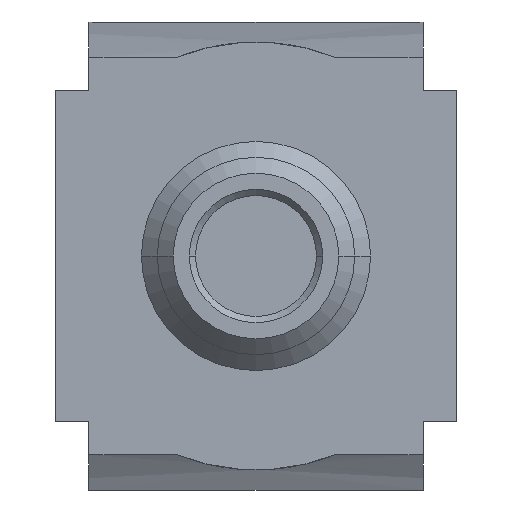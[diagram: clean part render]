
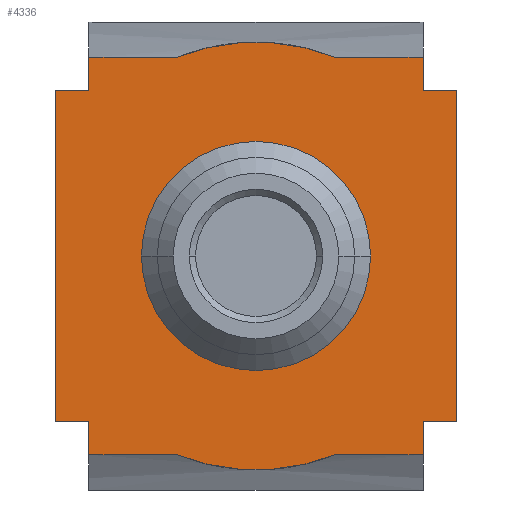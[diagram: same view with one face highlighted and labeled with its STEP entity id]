
A CAD part, front view. The second image highlights one B-rep face of the part: STEP entity #4336.
In plain terms, the highlighted planar face has unit normal (0, -1, 0).
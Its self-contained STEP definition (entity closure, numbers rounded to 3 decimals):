
#889=DIRECTION('',(0.,0.,-1.));
#890=VECTOR('',#889,5.242);
#891=CARTESIAN_POINT('',(-26.25,-37.5,-26.));
#892=LINE('',#891,#890);
#923=DIRECTION('',(0.,0.,-1.));
#924=VECTOR('',#923,5.242);
#925=CARTESIAN_POINT('',(-26.25,-37.5,31.242));
#926=LINE('',#925,#924);
#981=DIRECTION('',(1.,0.,0.));
#982=VECTOR('',#981,5.25);
#983=CARTESIAN_POINT('',(26.25,-37.5,26.));
#984=LINE('',#983,#982);
#989=DIRECTION('',(1.,0.,0.));
#990=VECTOR('',#989,5.25);
#991=CARTESIAN_POINT('',(-31.5,-37.5,26.));
#992=LINE('',#991,#990);
#1340=DIRECTION('',(1.,0.,0.));
#1341=VECTOR('',#1340,5.25);
#1342=CARTESIAN_POINT('',(26.25,-37.5,-26.));
#1343=LINE('',#1342,#1341);
#1374=DIRECTION('',(1.,0.,0.));
#1375=VECTOR('',#1374,5.25);
#1376=CARTESIAN_POINT('',(-31.5,-37.5,-26.));
#1377=LINE('',#1376,#1375);
#1431=DIRECTION('',(0.,0.,-1.));
#1432=VECTOR('',#1431,5.242);
#1433=CARTESIAN_POINT('',(26.25,-37.5,31.242));
#1434=LINE('',#1433,#1432);
#1465=DIRECTION('',(0.,0.,-1.));
#1466=VECTOR('',#1465,5.242);
#1467=CARTESIAN_POINT('',(26.25,-37.5,-26.));
#1468=LINE('',#1467,#1466);
#1481=CARTESIAN_POINT('',(0.,-37.5,0.));
#1482=DIRECTION('',(0.,1.,0.));
#1483=DIRECTION('',(0.368,0.,-0.93));
#1484=AXIS2_PLACEMENT_3D('',#1481,#1482,#1483);
#1486=DIRECTION('',(0.,0.,1.));
#1487=VECTOR('',#1486,52.);
#1488=CARTESIAN_POINT('',(-31.5,-37.5,-26.));
#1489=LINE('',#1488,#1487);
#1490=DIRECTION('',(1.,0.,0.));
#1491=VECTOR('',#1490,13.886);
#1492=CARTESIAN_POINT('',(-26.25,-37.5,31.242));
#1493=LINE('',#1492,#1491);
#1494=CARTESIAN_POINT('',(0.,-37.5,0.));
#1495=DIRECTION('',(0.,1.,0.));
#1496=DIRECTION('',(-0.368,0.,0.93));
#1497=AXIS2_PLACEMENT_3D('',#1494,#1495,#1496);
#1499=DIRECTION('',(1.,0.,0.));
#1500=VECTOR('',#1499,13.886);
#1501=CARTESIAN_POINT('',(12.364,-37.5,31.242));
#1502=LINE('',#1501,#1500);
#1503=CARTESIAN_POINT('',(0.,-37.5,0.));
#1504=DIRECTION('',(0.,1.,0.));
#1505=DIRECTION('',(-1.,0.,0.));
#1506=AXIS2_PLACEMENT_3D('',#1503,#1504,#1505);
#1508=CARTESIAN_POINT('',(0.,-37.5,0.));
#1509=DIRECTION('',(0.,1.,0.));
#1510=DIRECTION('',(1.,0.,0.));
#1511=AXIS2_PLACEMENT_3D('',#1508,#1509,#1510);
#1523=DIRECTION('',(1.,0.,0.));
#1524=VECTOR('',#1523,13.886);
#1525=CARTESIAN_POINT('',(-26.25,-37.5,-31.242));
#1526=LINE('',#1525,#1524);
#1572=DIRECTION('',(1.,0.,0.));
#1573=VECTOR('',#1572,13.886);
#1574=CARTESIAN_POINT('',(12.364,-37.5,-31.242));
#1575=LINE('',#1574,#1573);
#1645=DIRECTION('',(0.,0.,1.));
#1646=VECTOR('',#1645,52.);
#1647=CARTESIAN_POINT('',(31.5,-37.5,-26.));
#1648=LINE('',#1647,#1646);
#1935=CARTESIAN_POINT('',(-31.5,-37.5,-26.));
#1936=VERTEX_POINT('',#1935);
#1937=CARTESIAN_POINT('',(31.5,-37.5,-26.));
#1939=VERTEX_POINT('',#1937);
#1959=CARTESIAN_POINT('',(-31.5,-37.5,26.));
#1960=VERTEX_POINT('',#1959);
#1961=CARTESIAN_POINT('',(31.5,-37.5,26.));
#1963=VERTEX_POINT('',#1961);
#1973=CARTESIAN_POINT('',(-26.25,-37.5,31.242));
#1974=CARTESIAN_POINT('',(-26.25,-37.5,26.));
#1975=VERTEX_POINT('',#1973);
#1976=VERTEX_POINT('',#1974);
#1977=CARTESIAN_POINT('',(26.25,-37.5,31.242));
#1978=CARTESIAN_POINT('',(26.25,-37.5,26.));
#1979=VERTEX_POINT('',#1977);
#1980=VERTEX_POINT('',#1978);
#1981=CARTESIAN_POINT('',(-26.25,-37.5,-26.));
#1982=VERTEX_POINT('',#1981);
#1983=CARTESIAN_POINT('',(26.25,-37.5,-26.));
#1984=VERTEX_POINT('',#1983);
#1985=CARTESIAN_POINT('',(-26.25,-37.5,-31.242));
#1986=VERTEX_POINT('',#1985);
#1987=CARTESIAN_POINT('',(26.25,-37.5,-31.242));
#1988=VERTEX_POINT('',#1987);
#2029=CARTESIAN_POINT('',(-12.364,-37.5,31.242));
#2030=VERTEX_POINT('',#2029);
#2031=CARTESIAN_POINT('',(12.364,-37.5,31.242));
#2032=VERTEX_POINT('',#2031);
#2033=CARTESIAN_POINT('',(-12.364,-37.5,-31.242));
#2034=VERTEX_POINT('',#2033);
#2035=CARTESIAN_POINT('',(12.364,-37.5,-31.242));
#2036=VERTEX_POINT('',#2035);
#2205=CARTESIAN_POINT('',(-18.,-37.5,0.));
#2206=CARTESIAN_POINT('',(18.,-37.5,0.));
#2207=VERTEX_POINT('',#2205);
#2208=VERTEX_POINT('',#2206);
#4299=CARTESIAN_POINT('',(-26.25,-37.5,31.242));
#4300=DIRECTION('',(0.,-1.,0.));
#4301=DIRECTION('',(0.,0.,-1.));
#4302=AXIS2_PLACEMENT_3D('',#4299,#4300,#4301);
#4303=PLANE('',#4302);
#4305=ORIENTED_EDGE('',*,*,#4304,.F.);
#4307=ORIENTED_EDGE('',*,*,#4306,.T.);
#4309=ORIENTED_EDGE('',*,*,#4308,.F.);
#4310=ORIENTED_EDGE('',*,*,#3684,.F.);
#4311=ORIENTED_EDGE('',*,*,#4194,.F.);
#4313=ORIENTED_EDGE('',*,*,#4312,.T.);
#4314=ORIENTED_EDGE('',*,*,#3768,.T.);
#4315=ORIENTED_EDGE('',*,*,#3699,.F.);
#4317=ORIENTED_EDGE('',*,*,#4316,.T.);
#4319=ORIENTED_EDGE('',*,*,#4318,.T.);
#4321=ORIENTED_EDGE('',*,*,#4320,.T.);
#4322=ORIENTED_EDGE('',*,*,#4258,.T.);
#4323=ORIENTED_EDGE('',*,*,#3753,.T.);
#4325=ORIENTED_EDGE('',*,*,#4324,.F.);
#4326=ORIENTED_EDGE('',*,*,#4173,.F.);
#4327=ORIENTED_EDGE('',*,*,#4273,.T.);
#4328=EDGE_LOOP('',(#4305,#4307,#4309,#4310,#4311,#4313,#4314,#4315,#4317,#4319,
#4321,#4322,#4323,#4325,#4326,#4327));
#4329=FACE_OUTER_BOUND('',#4328,.F.);
#4331=ORIENTED_EDGE('',*,*,#4330,.F.);
#4333=ORIENTED_EDGE('',*,*,#4332,.F.);
#4334=EDGE_LOOP('',(#4331,#4333));
#4335=FACE_BOUND('',#4334,.F.);
#4336=ADVANCED_FACE('',(#4329,#4335),#4303,.T.);
#1485=CIRCLE('',#1484,33.6);
#1498=CIRCLE('',#1497,33.6);
#1507=CIRCLE('',#1506,18.);
#1512=CIRCLE('',#1511,18.);
#3684=EDGE_CURVE('',#1982,#1986,#892,.T.);
#3699=EDGE_CURVE('',#1975,#1976,#926,.T.);
#3753=EDGE_CURVE('',#1980,#1963,#984,.T.);
#3768=EDGE_CURVE('',#1960,#1976,#992,.T.);
#4173=EDGE_CURVE('',#1984,#1939,#1343,.T.);
#4194=EDGE_CURVE('',#1936,#1982,#1377,.T.);
#4258=EDGE_CURVE('',#1979,#1980,#1434,.T.);
#4273=EDGE_CURVE('',#1984,#1988,#1468,.T.);
#4304=EDGE_CURVE('',#2036,#1988,#1575,.T.);
#4306=EDGE_CURVE('',#2036,#2034,#1485,.T.);
#4308=EDGE_CURVE('',#1986,#2034,#1526,.T.);
#4312=EDGE_CURVE('',#1936,#1960,#1489,.T.);
#4316=EDGE_CURVE('',#1975,#2030,#1493,.T.);
#4318=EDGE_CURVE('',#2030,#2032,#1498,.T.);
#4320=EDGE_CURVE('',#2032,#1979,#1502,.T.);
#4324=EDGE_CURVE('',#1939,#1963,#1648,.T.);
#4330=EDGE_CURVE('',#2207,#2208,#1507,.T.);
#4332=EDGE_CURVE('',#2208,#2207,#1512,.T.);
